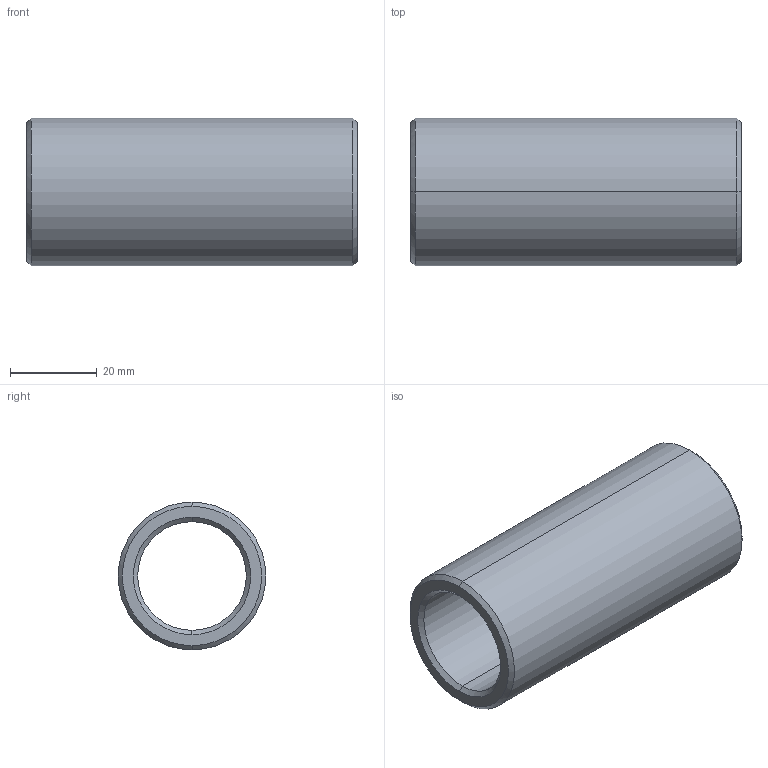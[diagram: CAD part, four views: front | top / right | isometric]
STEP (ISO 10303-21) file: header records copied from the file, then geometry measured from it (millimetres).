
FILE_DESCRIPTION(('CATIA V5 STEP Exchange'),'2;1');
FILE_NAME('C:\Users\Utente\Desktop\IO LAVORO\3D X SITO CF\X SITO\PLASTICA\352\352-25X76.stp','2021-04-14T15:27:04+00:00',('none'),('none'),'CATIA Version 5 Release 20 GA (IN-10)','CATIA V5 STEP AP203','none');
FILE_SCHEMA(('CONFIG_CONTROL_DESIGN'));
Length unit declared in the file: millimetre
Products named in the file (1): 352-25X76
Bounding box: 76 x 34 x 34 mm (x, y, z)
Volume: 31533.3 mm3; surface area: 14715.3 mm2
Topology: 1 solids, 1 shells, 14 faces, 44 edges, 32 vertices
Faces by surface type: cone 6, cylinder 4, plane 2, torus 2
Entity records: 634 total; most frequent: CARTESIAN_POINT 203, ORIENTED_EDGE 88, DIRECTION 64, EDGE_CURVE 44, AXIS2_PLACEMENT_3D 41, VERTEX_POINT 32, CIRCLE 26, EDGE_LOOP 16
